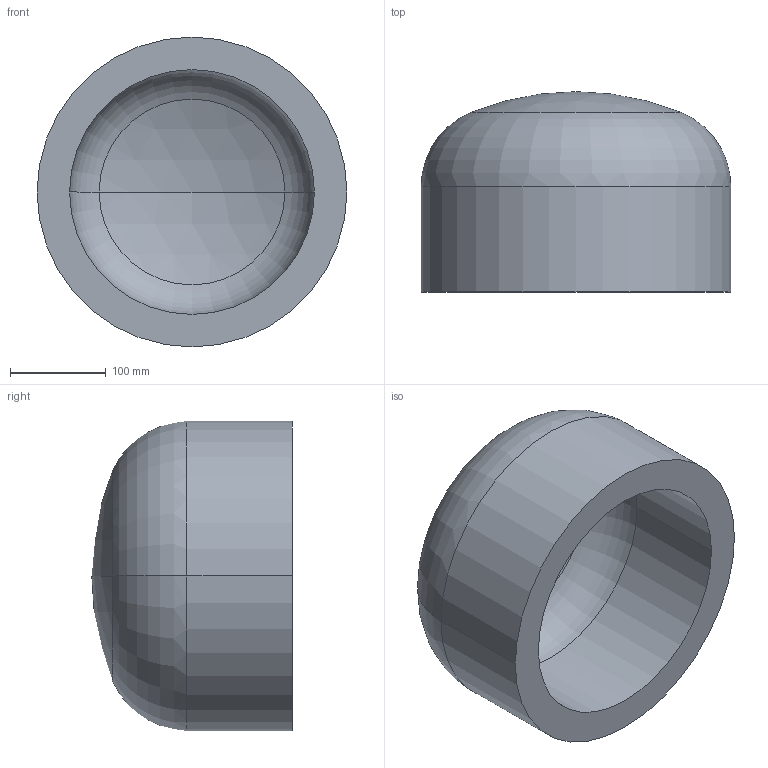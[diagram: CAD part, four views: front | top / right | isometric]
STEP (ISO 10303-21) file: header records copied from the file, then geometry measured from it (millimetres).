
FILE_DESCRIPTION (( 'STEP AP203' ), '1' );
FILE_NAME ('DIN 28013 Korbbogenform_-_Boden DIN 28013 - 323,9 x 110 - I - s=34.step', '2016-07-01T07:45:20', ( '' ), ( '' ), 'SwSTEP 2.0', 'SolidWorks 2013', '' );
FILE_SCHEMA (( 'CONFIG_CONTROL_DESIGN' ));
Length unit declared in the file: millimetre
Products named in the file (1): DIN 28013 Korbbogenform_-_Boden DIN 28013 - 323,9 x 110 - I - s=34
Bounding box: 323.9 x 209.48 x 323.9 mm (x, y, z)
Volume: 6818610.8 mm3; surface area: 434481.3 mm2
Topology: 1 solids, 1 shells, 13 faces, 24 edges, 14 vertices
Faces by surface type: torus 4, cylinder 4, sphere 4, plane 1
Entity records: 407 total; most frequent: DIRECTION 72, CARTESIAN_POINT 52, ORIENTED_EDGE 48, AXIS2_PLACEMENT_3D 34, EDGE_CURVE 24, CIRCLE 20, EDGE_LOOP 14, VERTEX_POINT 14
